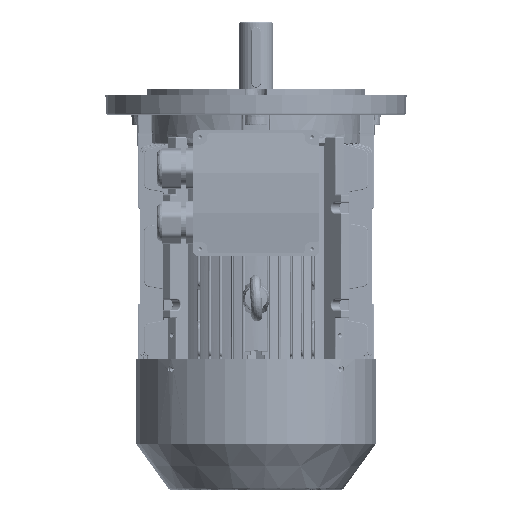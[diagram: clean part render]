
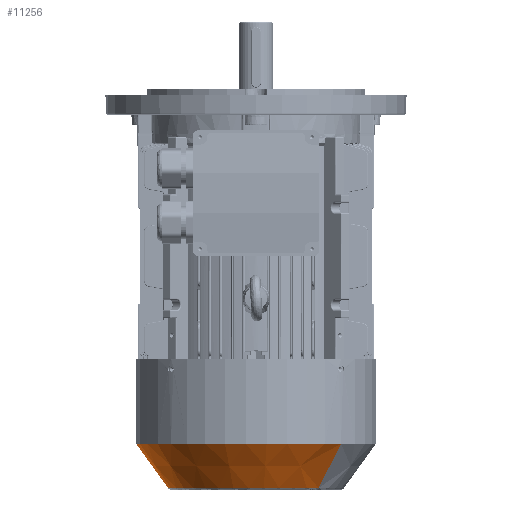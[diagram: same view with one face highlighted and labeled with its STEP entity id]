
A CAD part, front view. The second image highlights one B-rep face of the part: STEP entity #11256.
In plain terms, the highlighted conical face has half-angle 35.9 degrees and reference radius 99.05 mm.
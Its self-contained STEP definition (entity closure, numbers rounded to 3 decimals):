
#10418 = VERTEX_POINT ( 'NONE', #86632 ) ;
#10426 = VERTEX_POINT ( 'NONE', #86726 ) ;
#10437 = VERTEX_POINT ( 'NONE', #87313 ) ;
#10442 = VERTEX_POINT ( 'NONE', #87571 ) ;
#11256 = ADVANCED_FACE ( 'NONE', ( #154341 ), #154355, .T. ) ;
#38459 = AXIS2_PLACEMENT_3D ( 'NONE', #122231, #122233, #122235 ) ;
#38467 = AXIS2_PLACEMENT_3D ( 'NONE', #122469, #122470, #122471 ) ;
#38605 = AXIS2_PLACEMENT_3D ( 'NONE', #56173, #56172, #56174 ) ;
#56172 = DIRECTION ( 'NONE',  ( -1., 0., 0. ) ) ;
#56173 = CARTESIAN_POINT ( 'NONE',  ( 70., 0., 0. ) ) ;
#56174 = DIRECTION ( 'NONE',  ( 0., 0., 1. ) ) ;
#63352 = ORIENTED_EDGE ( 'NONE', *, *, #93309, .T. ) ;
#63353 = ORIENTED_EDGE ( 'NONE', *, *, #93308, .T. ) ;
#63354 = ORIENTED_EDGE ( 'NONE', *, *, #93325, .F. ) ;
#63355 = ORIENTED_EDGE ( 'NONE', *, *, #93307, .F. ) ;
#66744 = LINE ( 'NONE', #122137, #66757 ) ;
#66747 = LINE ( 'NONE', #122215, #66763 ) ;
#66753 = CIRCLE ( 'NONE', #38459, 72.74 ) ;
#66757 = VECTOR ( 'NONE', #122189, 1000. ) ;
#66763 = VECTOR ( 'NONE', #122224, 1000. ) ;
#66811 = CIRCLE ( 'NONE', #38467, 99.05 ) ;
#86632 = CARTESIAN_POINT ( 'NONE',  ( 70., 0., -99.05 ) ) ;
#86726 = CARTESIAN_POINT ( 'NONE',  ( 70., 0., 99.05 ) ) ;
#87313 = CARTESIAN_POINT ( 'NONE',  ( 106.345, 0., -72.74 ) ) ;
#87571 = CARTESIAN_POINT ( 'NONE',  ( 106.345, 0., 72.74 ) ) ;
#93307 = EDGE_CURVE ( 'NONE', #10442, #10426, #66744, .T. ) ;
#93308 = EDGE_CURVE ( 'NONE', #10437, #10418, #66747, .T. ) ;
#93309 = EDGE_CURVE ( 'NONE', #10442, #10437, #66753, .T. ) ;
#93325 = EDGE_CURVE ( 'NONE', #10426, #10418, #66811, .T. ) ;
#122137 = CARTESIAN_POINT ( 'NONE',  ( 70., 0., 99.05 ) ) ;
#122189 = DIRECTION ( 'NONE',  ( -0.81, 0., 0.586 ) ) ;
#122215 = CARTESIAN_POINT ( 'NONE',  ( 70., 0., -99.05 ) ) ;
#122224 = DIRECTION ( 'NONE',  ( -0.81, 0., -0.586 ) ) ;
#122231 = CARTESIAN_POINT ( 'NONE',  ( 106.345, 0., 0. ) ) ;
#122233 = DIRECTION ( 'NONE',  ( -1., 0., 0. ) ) ;
#122235 = DIRECTION ( 'NONE',  ( 0., 0., 1. ) ) ;
#122469 = CARTESIAN_POINT ( 'NONE',  ( 70., 0., 0. ) ) ;
#122470 = DIRECTION ( 'NONE',  ( -1., 0., 0. ) ) ;
#122471 = DIRECTION ( 'NONE',  ( 0., 0., 1. ) ) ;
#154341 = FACE_OUTER_BOUND ( 'NONE', #181588, .T. ) ;
#154355 = CONICAL_SURFACE ( 'NONE', #38605, 99.05, 0.627 ) ;
#181588 = EDGE_LOOP ( 'NONE', ( #63352, #63353, #63354, #63355 ) ) ;
